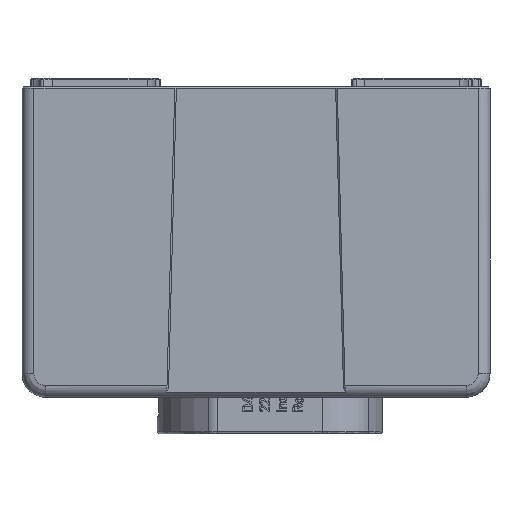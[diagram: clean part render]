
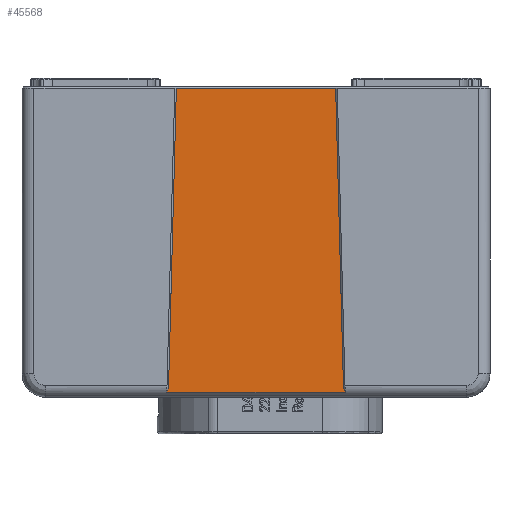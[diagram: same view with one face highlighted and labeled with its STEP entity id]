
A CAD part, left-side view. The second image highlights one B-rep face of the part: STEP entity #45568.
In plain terms, the highlighted planar face has unit normal (-1, 0, -0.018).
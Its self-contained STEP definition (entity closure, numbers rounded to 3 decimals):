
#2735 = EDGE_CURVE ( 'NONE', #86470, #72639, #5978, .T. ) ;
#4994 = LINE ( 'NONE', #79965, #68261 ) ;
#5300 = VERTEX_POINT ( 'NONE', #65313 ) ;
#5978 = LINE ( 'NONE', #66242, #75387 ) ;
#6860 = CARTESIAN_POINT ( 'NONE',  ( -14.242, 5.537, -22.989 ) ) ;
#7736 = CARTESIAN_POINT ( 'NONE',  ( -14.243, 5.532, -22.978 ) ) ;
#11782 = CARTESIAN_POINT ( 'NONE',  ( -14.244, 5.502, -22.898 ) ) ;
#12041 = CARTESIAN_POINT ( 'NONE',  ( -14.242, -5.559, -23.035 ) ) ;
#12927 = CARTESIAN_POINT ( 'NONE',  ( -14.241, -5.573, -23.064 ) ) ;
#13120 = ORIENTED_EDGE ( 'NONE', *, *, #74275, .T. ) ;
#13784 = CARTESIAN_POINT ( 'NONE',  ( -14.24, -5.601, -23.112 ) ) ;
#14573 = CARTESIAN_POINT ( 'NONE',  ( -14.573, -5.003, -4.037 ) ) ;
#15648 = EDGE_LOOP ( 'NONE', ( #35658, #50160, #44422, #13120, #45019, #72863 ) ) ;
#18880 = CARTESIAN_POINT ( 'NONE',  ( -14.244, 5.496, -22.879 ) ) ;
#19578 = CARTESIAN_POINT ( 'NONE',  ( -14.242, -5.55, -23.017 ) ) ;
#21060 = VERTEX_POINT ( 'NONE', #54516 ) ;
#23280 = B_SPLINE_CURVE_WITH_KNOTS ( 'NONE', 3,
 ( #13784, #67406, #12927, #12041, #19578, #39251, #81659, #80327, #25840 ),
 .UNSPECIFIED., .F., .F.,
 ( 4, 1, 2, 2, 4 ),
 ( 0., 0.25, 0.375, 0.5, 1. ),
 .UNSPECIFIED. ) ;
#23338 = EDGE_CURVE ( 'NONE', #5300, #43932, #4994, .T. ) ;
#25840 = CARTESIAN_POINT ( 'NONE',  ( -14.244, -5.496, -22.879 ) ) ;
#27071 = LINE ( 'NONE', #27497, #75080 ) ;
#27497 = CARTESIAN_POINT ( 'NONE',  ( -14.573, 5., -4.037 ) ) ;
#28339 = VECTOR ( 'NONE', #37510, 1000. ) ;
#28434 = DIRECTION ( 'NONE',  ( 0.017, 0., -1. ) ) ;
#34921 = CARTESIAN_POINT ( 'NONE',  ( -14.24, 5.601, -23.112 ) ) ;
#35364 = CARTESIAN_POINT ( 'NONE',  ( -14.243, 5.524, -22.958 ) ) ;
#35658 = ORIENTED_EDGE ( 'NONE', *, *, #2735, .T. ) ;
#37510 = DIRECTION ( 'NONE',  ( 0.017, 0.026, -1. ) ) ;
#39251 = CARTESIAN_POINT ( 'NONE',  ( -14.242, -5.546, -23.009 ) ) ;
#43324 = CARTESIAN_POINT ( 'NONE',  ( -14.577, 4.997, -3.835 ) ) ;
#43932 = VERTEX_POINT ( 'NONE', #63379 ) ;
#44422 = ORIENTED_EDGE ( 'NONE', *, *, #50039, .T. ) ;
#45019 = ORIENTED_EDGE ( 'NONE', *, *, #23338, .T. ) ;
#45568 = ADVANCED_FACE ( 'NONE', ( #62836 ), #67040, .T. ) ;
#45984 = AXIS2_PLACEMENT_3D ( 'NONE', #83386, #62411, #28434 ) ;
#47513 = CARTESIAN_POINT ( 'NONE',  ( -14.244, -5.496, -22.879 ) ) ;
#50039 = EDGE_CURVE ( 'NONE', #21060, #59928, #85704, .T. ) ;
#50160 = ORIENTED_EDGE ( 'NONE', *, *, #73234, .T. ) ;
#50792 = EDGE_CURVE ( 'NONE', #43932, #86470, #23280, .T. ) ;
#54516 = CARTESIAN_POINT ( 'NONE',  ( -14.573, 5.003, -4.037 ) ) ;
#57623 = B_SPLINE_CURVE_WITH_KNOTS ( 'NONE', 3,
 ( #18880, #11782, #76011, #35364, #7736, #6860, #61266, #62616, #34921 ),
 .UNSPECIFIED., .F., .F.,
 ( 4, 1, 2, 2, 4 ),
 ( 0., 0.25, 0.375, 0.5, 1. ),
 .UNSPECIFIED. ) ;
#59928 = VERTEX_POINT ( 'NONE', #75365 ) ;
#61266 = CARTESIAN_POINT ( 'NONE',  ( -14.242, 5.558, -23.035 ) ) ;
#62411 = DIRECTION ( 'NONE',  ( -1., 0., -0.017 ) ) ;
#62616 = CARTESIAN_POINT ( 'NONE',  ( -14.241, 5.578, -23.073 ) ) ;
#62836 = FACE_OUTER_BOUND ( 'NONE', #15648, .T. ) ;
#63379 = CARTESIAN_POINT ( 'NONE',  ( -14.24, -5.601, -23.112 ) ) ;
#65313 = CARTESIAN_POINT ( 'NONE',  ( -14.24, 5.601, -23.112 ) ) ;
#66242 = CARTESIAN_POINT ( 'NONE',  ( -14.233, -5.513, -23.529 ) ) ;
#67040 = PLANE ( 'NONE',  #45984 ) ;
#67406 = CARTESIAN_POINT ( 'NONE',  ( -14.241, -5.589, -23.093 ) ) ;
#68261 = VECTOR ( 'NONE', #73277, 1000. ) ;
#72639 = VERTEX_POINT ( 'NONE', #14573 ) ;
#72863 = ORIENTED_EDGE ( 'NONE', *, *, #50792, .T. ) ;
#73234 = EDGE_CURVE ( 'NONE', #72639, #21060, #27071, .T. ) ;
#73277 = DIRECTION ( 'NONE',  ( 0., -1., 0. ) ) ;
#74275 = EDGE_CURVE ( 'NONE', #59928, #5300, #57623, .T. ) ;
#75080 = VECTOR ( 'NONE', #75319, 1000. ) ;
#75319 = DIRECTION ( 'NONE',  ( 0., 1., 0. ) ) ;
#75365 = CARTESIAN_POINT ( 'NONE',  ( -14.244, 5.496, -22.879 ) ) ;
#75387 = VECTOR ( 'NONE', #80066, 1000. ) ;
#76011 = CARTESIAN_POINT ( 'NONE',  ( -14.244, 5.512, -22.928 ) ) ;
#79965 = CARTESIAN_POINT ( 'NONE',  ( -14.24, 5.502, -23.112 ) ) ;
#80066 = DIRECTION ( 'NONE',  ( -0.017, 0.026, 1. ) ) ;
#80327 = CARTESIAN_POINT ( 'NONE',  ( -14.244, -5.508, -22.917 ) ) ;
#81659 = CARTESIAN_POINT ( 'NONE',  ( -14.243, -5.523, -22.957 ) ) ;
#83386 = CARTESIAN_POINT ( 'NONE',  ( -14.575, -4.9, -3.937 ) ) ;
#85704 = LINE ( 'NONE', #43324, #28339 ) ;
#86470 = VERTEX_POINT ( 'NONE', #47513 ) ;
